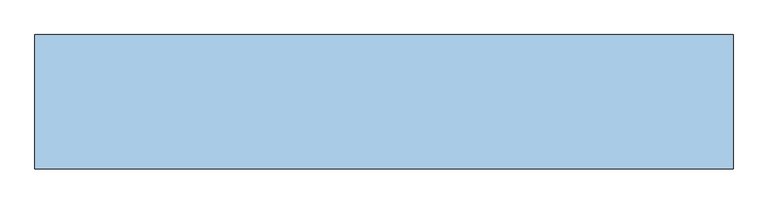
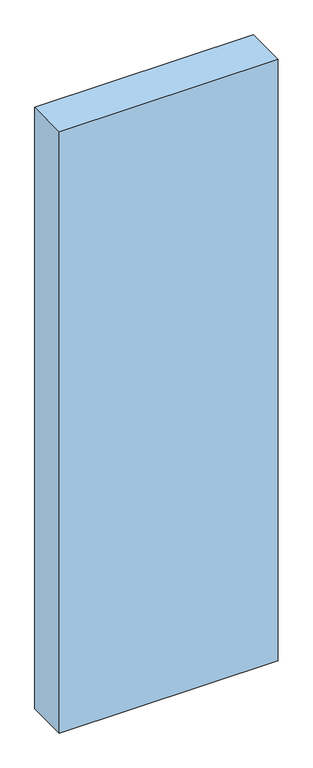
"""IFC4 building model written with IfcOpenShell, lengths in millimetres: window geometry, Dr_Проем-Четверти_об модель : ОК."""

from ifc_helpers import new_model, si_unit, origin, origin_with_axes, place, context, project, spatial, polyline, outline, extrude, source, transform, mapped, element, save


def window_46fb26e2(model_context):
    return source(origin(), model_context, "Body", "SweptSolid", [
        extrude(outline(polyline([(655.0, 100.0), (655.0, -100.0), (-385.0, -100.0), (-385.0, 100.0), (655.0, 100.0)])), origin_with_axes(), (0.0, 0.0, 1.0), 3020.0),
    ])


if __name__ == "__main__":
    model = new_model("IFC4")
    model_context = context("Model", 3, world=origin())
    ifc_project = project(units=[si_unit("LENGTHUNIT", "METRE", prefix="MILLI")], contexts=[model_context])
    site = spatial("IfcSite", under=ifc_project)
    building = spatial("IfcBuilding", under=site)
    placement = place(None, origin())
    window_shape = window_46fb26e2(model_context)
    element("IfcWindow", 1, ObjectType="Dr_Проем-Четверти_об модель : ОК", at=placement, inside=building, context=model_context, shape_type="MappedRepresentation", body=[
        mapped(window_shape, transform((0.0, 0.0, 0.0), x_axis=(1.0, 0.0, 0.0), y_axis=(0.0, 1.0, 0.0), z_axis=(0.0, 0.0, 1.0))),
    ])
    save(model, "model.ifc")
